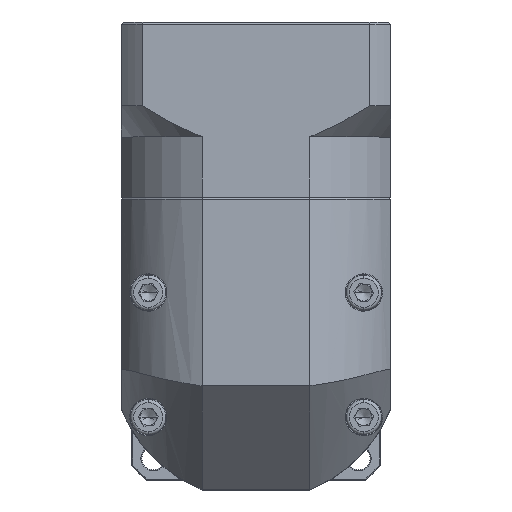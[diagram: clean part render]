
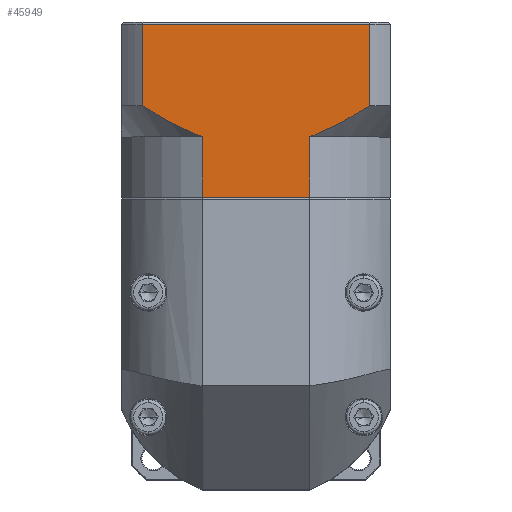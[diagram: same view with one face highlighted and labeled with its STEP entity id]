
A CAD part, top view. The second image highlights one B-rep face of the part: STEP entity #45949.
In plain terms, the highlighted planar face has unit normal (0, 0, 1).
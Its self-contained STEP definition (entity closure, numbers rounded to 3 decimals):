
#780 = LINE ( 'NONE', #44673, #74435 ) ;
#1464 = EDGE_LOOP ( 'NONE', ( #49372, #51241, #64389, #85726, #61909, #78870, #95108, #23412 ) ) ;
#1943 = CARTESIAN_POINT ( 'NONE',  ( -45.059, 85.816, 74.497 ) ) ;
#2331 = DIRECTION ( 'NONE',  ( 0., 1., 0. ) ) ;
#2563 = VECTOR ( 'NONE', #19339, 1000. ) ;
#3098 = CARTESIAN_POINT ( 'NONE',  ( -47.584, 84.764, 74.497 ) ) ;
#3180 = CARTESIAN_POINT ( 'NONE',  ( -88.602, 111.726, 74.497 ) ) ;
#4654 = VERTEX_POINT ( 'NONE', #21336 ) ;
#4837 = EDGE_CURVE ( 'NONE', #105639, #12675, #97812, .T. ) ;
#7513 = CARTESIAN_POINT ( 'NONE',  ( -33.83, 111.726, 74.497 ) ) ;
#7904 = CARTESIAN_POINT ( 'NONE',  ( -33.83, 92.026, 74.497 ) ) ;
#10838 = DIRECTION ( 'NONE',  ( 1., 0., 0. ) ) ;
#11276 = CARTESIAN_POINT ( 'NONE',  ( -41.993, 87.272, 74.497 ) ) ;
#12675 = VERTEX_POINT ( 'NONE', #62319 ) ;
#13664 = CARTESIAN_POINT ( 'NONE',  ( -79.197, 86.613, 74.497 ) ) ;
#13921 = B_SPLINE_CURVE_WITH_KNOTS ( 'NONE', 3,
 ( #85436, #40069, #103281, #32315, #111032, #13664, #50055, #40450 ),
 .UNSPECIFIED., .F., .F.,
 ( 4, 2, 2, 4 ),
 ( 0.058, 0.062, 0.066, 0.074 ),
 .UNSPECIFIED. ) ;
#14450 = CARTESIAN_POINT ( 'NONE',  ( -88.602, 84.526, 74.497 ) ) ;
#14727 = EDGE_CURVE ( 'NONE', #21337, #48356, #13921, .T. ) ;
#19339 = DIRECTION ( 'NONE',  ( 0., -1., 0. ) ) ;
#21336 = CARTESIAN_POINT ( 'NONE',  ( -74.207, 70.026, 74.497 ) ) ;
#21337 = VERTEX_POINT ( 'NONE', #85068 ) ;
#23412 = ORIENTED_EDGE ( 'NONE', *, *, #70652, .T. ) ;
#29540 = CARTESIAN_POINT ( 'NONE',  ( -48.226, 84.526, 74.497 ) ) ;
#32315 = CARTESIAN_POINT ( 'NONE',  ( -83.978, 89.193, 74.497 ) ) ;
#32766 = CARTESIAN_POINT ( 'NONE',  ( -74.207, 84.526, 74.497 ) ) ;
#33509 = B_SPLINE_CURVE_WITH_KNOTS ( 'NONE', 3,
 ( #29540, #3098, #64408, #82677, #1943, #73750, #11276, #38446, #37272, #109432 ),
 .UNSPECIFIED., .F., .F.,
 ( 4, 2, 2, 2, 4 ),
 ( 0.101, 0.103, 0.105, 0.109, 0.117 ),
 .UNSPECIFIED. ) ;
#34455 = CARTESIAN_POINT ( 'NONE',  ( -48.226, 84.526, 74.497 ) ) ;
#35297 = CARTESIAN_POINT ( 'NONE',  ( -33.83, 84.526, 74.497 ) ) ;
#36884 = PLANE ( 'NONE',  #96048 ) ;
#37272 = CARTESIAN_POINT ( 'NONE',  ( -36.098, 90.564, 74.497 ) ) ;
#38446 = CARTESIAN_POINT ( 'NONE',  ( -38.412, 89.177, 74.497 ) ) ;
#40069 = CARTESIAN_POINT ( 'NONE',  ( -87.464, 91.293, 74.497 ) ) ;
#40450 = CARTESIAN_POINT ( 'NONE',  ( -74.207, 84.526, 74.497 ) ) ;
#42121 = FACE_OUTER_BOUND ( 'NONE', #1464, .T. ) ;
#44673 = CARTESIAN_POINT ( 'NONE',  ( -93.716, 111.726, 74.497 ) ) ;
#45949 = ADVANCED_FACE ( 'NONE', ( #42121 ), #36884, .F. ) ;
#46953 = CARTESIAN_POINT ( 'NONE',  ( -93.716, 112.226, 74.497 ) ) ;
#47333 = DIRECTION ( 'NONE',  ( 0., 0., -1. ) ) ;
#48356 = VERTEX_POINT ( 'NONE', #32766 ) ;
#49301 = LINE ( 'NONE', #14450, #90987 ) ;
#49372 = ORIENTED_EDGE ( 'NONE', *, *, #112508, .F. ) ;
#49561 = EDGE_CURVE ( 'NONE', #4654, #12675, #72719, .T. ) ;
#50055 = CARTESIAN_POINT ( 'NONE',  ( -76.745, 85.468, 74.497 ) ) ;
#51241 = ORIENTED_EDGE ( 'NONE', *, *, #62101, .T. ) ;
#53378 = VECTOR ( 'NONE', #60432, 1000. ) ;
#58677 = DIRECTION ( 'NONE',  ( 0., 1., 0. ) ) ;
#60432 = DIRECTION ( 'NONE',  ( 0., -1., 0. ) ) ;
#61909 = ORIENTED_EDGE ( 'NONE', *, *, #87161, .F. ) ;
#62101 = EDGE_CURVE ( 'NONE', #101069, #78453, #780, .T. ) ;
#62319 = CARTESIAN_POINT ( 'NONE',  ( -48.226, 70.026, 74.497 ) ) ;
#64389 = ORIENTED_EDGE ( 'NONE', *, *, #103246, .F. ) ;
#64408 = CARTESIAN_POINT ( 'NONE',  ( -46.945, 85.017, 74.497 ) ) ;
#67813 = LINE ( 'NONE', #35297, #2563 ) ;
#70652 = EDGE_CURVE ( 'NONE', #105639, #101187, #33509, .T. ) ;
#71703 = CARTESIAN_POINT ( 'NONE',  ( -74.207, 84.526, 74.497 ) ) ;
#72719 = LINE ( 'NONE', #90772, #74074 ) ;
#73750 = CARTESIAN_POINT ( 'NONE',  ( -43.206, 86.667, 74.497 ) ) ;
#74074 = VECTOR ( 'NONE', #10838, 1000. ) ;
#74435 = VECTOR ( 'NONE', #98990, 1000. ) ;
#78453 = VERTEX_POINT ( 'NONE', #3180 ) ;
#78731 = DIRECTION ( 'NONE',  ( 0., 1., 0. ) ) ;
#78870 = ORIENTED_EDGE ( 'NONE', *, *, #49561, .T. ) ;
#82677 = CARTESIAN_POINT ( 'NONE',  ( -45.683, 85.543, 74.497 ) ) ;
#85068 = CARTESIAN_POINT ( 'NONE',  ( -88.602, 92.026, 74.497 ) ) ;
#85436 = CARTESIAN_POINT ( 'NONE',  ( -88.602, 92.026, 74.497 ) ) ;
#85726 = ORIENTED_EDGE ( 'NONE', *, *, #14727, .T. ) ;
#87161 = EDGE_CURVE ( 'NONE', #4654, #48356, #91639, .T. ) ;
#90772 = CARTESIAN_POINT ( 'NONE',  ( -93.716, 70.026, 74.497 ) ) ;
#90987 = VECTOR ( 'NONE', #58677, 1000. ) ;
#91639 = LINE ( 'NONE', #71703, #100136 ) ;
#95108 = ORIENTED_EDGE ( 'NONE', *, *, #4837, .F. ) ;
#96048 = AXIS2_PLACEMENT_3D ( 'NONE', #46953, #47333, #2331 ) ;
#97812 = LINE ( 'NONE', #34455, #53378 ) ;
#98990 = DIRECTION ( 'NONE',  ( -1., 0., 0. ) ) ;
#100136 = VECTOR ( 'NONE', #78731, 1000. ) ;
#100269 = CARTESIAN_POINT ( 'NONE',  ( -48.226, 84.526, 74.497 ) ) ;
#101069 = VERTEX_POINT ( 'NONE', #7513 ) ;
#101187 = VERTEX_POINT ( 'NONE', #7904 ) ;
#103246 = EDGE_CURVE ( 'NONE', #21337, #78453, #49301, .T. ) ;
#103281 = CARTESIAN_POINT ( 'NONE',  ( -86.313, 90.577, 74.497 ) ) ;
#105639 = VERTEX_POINT ( 'NONE', #100269 ) ;
#109432 = CARTESIAN_POINT ( 'NONE',  ( -33.83, 92.026, 74.497 ) ) ;
#111032 = CARTESIAN_POINT ( 'NONE',  ( -82.792, 88.523, 74.497 ) ) ;
#112508 = EDGE_CURVE ( 'NONE', #101069, #101187, #67813, .T. ) ;
